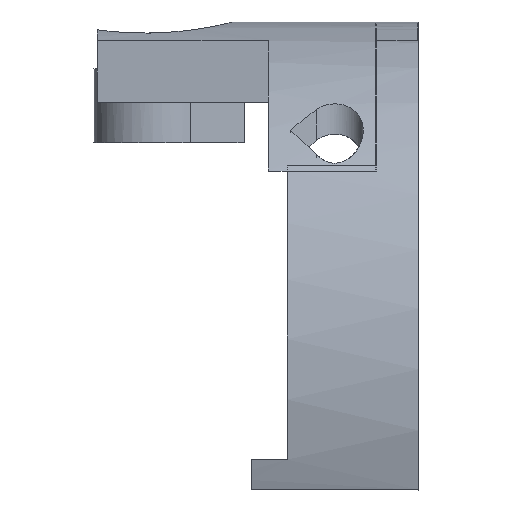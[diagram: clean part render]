
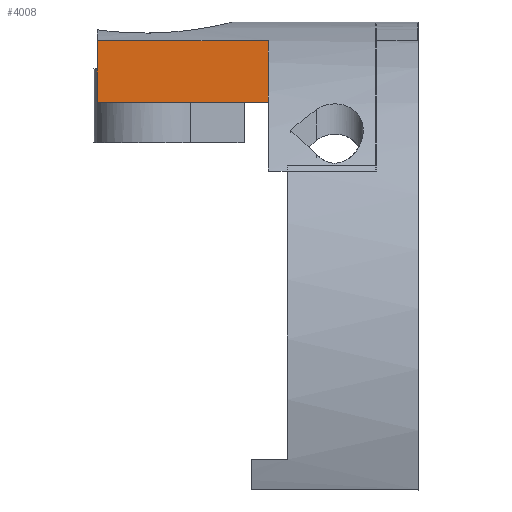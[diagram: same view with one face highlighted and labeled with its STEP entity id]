
A CAD part, front view. The second image highlights one B-rep face of the part: STEP entity #4008.
In plain terms, the highlighted planar face has unit normal (0, -1, 0).
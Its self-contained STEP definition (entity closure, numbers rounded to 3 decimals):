
#154 = PLANE('',#155);
#155 = AXIS2_PLACEMENT_3D('',#156,#157,#158);
#156 = CARTESIAN_POINT('',(185.,0.,0.));
#157 = DIRECTION('',(1.,0.,0.));
#158 = DIRECTION('',(-0.,0.,1.));
#297 = CYLINDRICAL_SURFACE('',#298,18.85);
#298 = AXIS2_PLACEMENT_3D('',#299,#300,#301);
#299 = CARTESIAN_POINT('',(194.,0.,0.));
#300 = DIRECTION('',(1.,0.,0.));
#301 = DIRECTION('',(-0.,0.,1.));
#1711 = CONICAL_SURFACE('',#1712,17.65,0.696);
#1712 = AXIS2_PLACEMENT_3D('',#1713,#1714,#1715);
#1713 = CARTESIAN_POINT('',(201.855,0.,0.));
#1714 = DIRECTION('',(1.,-0.,-0.));
#1715 = DIRECTION('',(0.,0.,-1.));
#1739 = CYLINDRICAL_SURFACE('',#1740,17.65);
#1740 = AXIS2_PLACEMENT_3D('',#1741,#1742,#1743);
#1741 = CARTESIAN_POINT('',(193.9,0.,0.));
#1742 = DIRECTION('',(1.,0.,0.));
#1743 = DIRECTION('',(-0.,0.,1.));
#1932 = VERTEX_POINT('',#1933);
#1933 = CARTESIAN_POINT('',(201.855,-6.,16.599));
#1955 = EDGE_CURVE('',#1932,#1956,#1958,.T.);
#1956 = VERTEX_POINT('',#1957);
#1957 = CARTESIAN_POINT('',(194.,-6.,16.599));
#1958 = SURFACE_CURVE('',#1959,(#1963,#1970),.PCURVE_S1.);
#1959 = LINE('',#1960,#1961);
#1960 = CARTESIAN_POINT('',(201.855,-6.,16.599));
#1961 = VECTOR('',#1962,1.);
#1962 = DIRECTION('',(-1.,0.,0.));
#1963 = PCURVE('',#1739,#1964);
#1964 = DEFINITIONAL_REPRESENTATION('',(#1965),#1969);
#1965 = LINE('',#1966,#1967);
#1966 = CARTESIAN_POINT('',(0.347,7.955));
#1967 = VECTOR('',#1968,1.);
#1968 = DIRECTION('',(-0.,-1.));
#1969 = ( GEOMETRIC_REPRESENTATION_CONTEXT(2) 
PARAMETRIC_REPRESENTATION_CONTEXT() REPRESENTATION_CONTEXT('2D SPACE',''
  ) );
#1970 = PCURVE('',#1971,#1976);
#1971 = PLANE('',#1972);
#1972 = AXIS2_PLACEMENT_3D('',#1973,#1974,#1975);
#1973 = CARTESIAN_POINT('',(185.,-6.,0.));
#1974 = DIRECTION('',(-0.,1.,0.));
#1975 = DIRECTION('',(0.,0.,1.));
#1976 = DEFINITIONAL_REPRESENTATION('',(#1977),#1981);
#1977 = LINE('',#1978,#1979);
#1978 = CARTESIAN_POINT('',(16.599,16.855));
#1979 = VECTOR('',#1980,1.);
#1980 = DIRECTION('',(0.,-1.));
#1981 = ( GEOMETRIC_REPRESENTATION_CONTEXT(2) 
PARAMETRIC_REPRESENTATION_CONTEXT() REPRESENTATION_CONTEXT('2D SPACE',''
  ) );
#2000 = PLANE('',#2001);
#2001 = AXIS2_PLACEMENT_3D('',#2002,#2003,#2004);
#2002 = CARTESIAN_POINT('',(194.,0.,0.));
#2003 = DIRECTION('',(1.,0.,0.));
#2004 = DIRECTION('',(-0.,0.,1.));
#3963 = EDGE_CURVE('',#1956,#3964,#3966,.T.);
#3964 = VERTEX_POINT('',#3965);
#3965 = CARTESIAN_POINT('',(194.,-6.,17.87));
#3966 = SURFACE_CURVE('',#3967,(#3971,#3978),.PCURVE_S1.);
#3967 = LINE('',#3968,#3969);
#3968 = CARTESIAN_POINT('',(194.,-6.,0.));
#3969 = VECTOR('',#3970,1.);
#3970 = DIRECTION('',(0.,0.,1.));
#3971 = PCURVE('',#2000,#3972);
#3972 = DEFINITIONAL_REPRESENTATION('',(#3973),#3977);
#3973 = LINE('',#3974,#3975);
#3974 = CARTESIAN_POINT('',(0.,6.));
#3975 = VECTOR('',#3976,1.);
#3976 = DIRECTION('',(1.,0.));
#3977 = ( GEOMETRIC_REPRESENTATION_CONTEXT(2) 
PARAMETRIC_REPRESENTATION_CONTEXT() REPRESENTATION_CONTEXT('2D SPACE',''
  ) );
#3978 = PCURVE('',#1971,#3979);
#3979 = DEFINITIONAL_REPRESENTATION('',(#3980),#3984);
#3980 = LINE('',#3981,#3982);
#3981 = CARTESIAN_POINT('',(0.,9.));
#3982 = VECTOR('',#3983,1.);
#3983 = DIRECTION('',(1.,0.));
#3984 = ( GEOMETRIC_REPRESENTATION_CONTEXT(2) 
PARAMETRIC_REPRESENTATION_CONTEXT() REPRESENTATION_CONTEXT('2D SPACE',''
  ) );
#4008 = ADVANCED_FACE('',(#4009),#1971,.F.);
#4009 = FACE_BOUND('',#4010,.F.);
#4010 = EDGE_LOOP('',(#4011,#4012,#4013,#4040,#4068,#4096,#4119));
#4011 = ORIENTED_EDGE('',*,*,#3963,.F.);
#4012 = ORIENTED_EDGE('',*,*,#1955,.F.);
#4013 = ORIENTED_EDGE('',*,*,#4014,.T.);
#4014 = EDGE_CURVE('',#1932,#4015,#4017,.T.);
#4015 = VERTEX_POINT('',#4016);
#4016 = CARTESIAN_POINT('',(199.7,-6.,14.671));
#4017 = SURFACE_CURVE('',#4018,(#4023,#4030),.PCURVE_S1.);
#4018 = HYPERBOLA('',#4019,7.183,6.);
#4019 = AXIS2_PLACEMENT_3D('',#4020,#4021,#4022);
#4020 = CARTESIAN_POINT('',(180.725,-6.,0.));
#4021 = DIRECTION('',(0.,1.,0.));
#4022 = DIRECTION('',(1.,0.,-0.));
#4023 = PCURVE('',#1971,#4024);
#4024 = DEFINITIONAL_REPRESENTATION('',(#4025),#4029);
#4025 = HYPERBOLA('',#4026,7.183,6.);
#4026 = AXIS2_PLACEMENT_2D('',#4027,#4028);
#4027 = CARTESIAN_POINT('',(0.,-4.275));
#4028 = DIRECTION('',(0.,1.));
#4029 = ( GEOMETRIC_REPRESENTATION_CONTEXT(2) 
PARAMETRIC_REPRESENTATION_CONTEXT() REPRESENTATION_CONTEXT('2D SPACE',''
  ) );
#4030 = PCURVE('',#1711,#4031);
#4031 = DEFINITIONAL_REPRESENTATION('',(#4032),#4039);
#4032 = B_SPLINE_CURVE_WITH_KNOTS('',5,(#4033,#4034,#4035,#4036,#4037,
    #4038),.UNSPECIFIED.,.F.,.F.,(6,6),(-1.742,-1.624)
  ,.PIECEWISE_BEZIER_KNOTS.);
#4033 = CARTESIAN_POINT('',(-2.795,0.));
#4034 = CARTESIAN_POINT('',(-2.787,-0.469));
#4035 = CARTESIAN_POINT('',(-2.778,-0.924));
#4036 = CARTESIAN_POINT('',(-2.77,-1.364));
#4037 = CARTESIAN_POINT('',(-2.761,-1.791));
#4038 = CARTESIAN_POINT('',(-2.752,-2.205));
#4039 = ( GEOMETRIC_REPRESENTATION_CONTEXT(2) 
PARAMETRIC_REPRESENTATION_CONTEXT() REPRESENTATION_CONTEXT('2D SPACE',''
  ) );
#4040 = ORIENTED_EDGE('',*,*,#4041,.F.);
#4041 = EDGE_CURVE('',#4042,#4015,#4044,.T.);
#4042 = VERTEX_POINT('',#4043);
#4043 = CARTESIAN_POINT('',(199.7,-6.,14.616));
#4044 = SURFACE_CURVE('',#4045,(#4049,#4056),.PCURVE_S1.);
#4045 = LINE('',#4046,#4047);
#4046 = CARTESIAN_POINT('',(199.7,-6.,-15.));
#4047 = VECTOR('',#4048,1.);
#4048 = DIRECTION('',(0.,-0.,1.));
#4049 = PCURVE('',#1971,#4050);
#4050 = DEFINITIONAL_REPRESENTATION('',(#4051),#4055);
#4051 = LINE('',#4052,#4053);
#4052 = CARTESIAN_POINT('',(-15.,14.7));
#4053 = VECTOR('',#4054,1.);
#4054 = DIRECTION('',(1.,0.));
#4055 = ( GEOMETRIC_REPRESENTATION_CONTEXT(2) 
PARAMETRIC_REPRESENTATION_CONTEXT() REPRESENTATION_CONTEXT('2D SPACE',''
  ) );
#4056 = PCURVE('',#4057,#4062);
#4057 = PLANE('',#4058);
#4058 = AXIS2_PLACEMENT_3D('',#4059,#4060,#4061);
#4059 = CARTESIAN_POINT('',(199.7,0.,0.));
#4060 = DIRECTION('',(1.,0.,0.));
#4061 = DIRECTION('',(-0.,0.,1.));
#4062 = DEFINITIONAL_REPRESENTATION('',(#4063),#4067);
#4063 = LINE('',#4064,#4065);
#4064 = CARTESIAN_POINT('',(-15.,6.));
#4065 = VECTOR('',#4066,1.);
#4066 = DIRECTION('',(1.,0.));
#4067 = ( GEOMETRIC_REPRESENTATION_CONTEXT(2) 
PARAMETRIC_REPRESENTATION_CONTEXT() REPRESENTATION_CONTEXT('2D SPACE',''
  ) );
#4068 = ORIENTED_EDGE('',*,*,#4069,.T.);
#4069 = EDGE_CURVE('',#4042,#4070,#4072,.T.);
#4070 = VERTEX_POINT('',#4071);
#4071 = CARTESIAN_POINT('',(185.,-6.,14.616));
#4072 = SURFACE_CURVE('',#4073,(#4077,#4084),.PCURVE_S1.);
#4073 = LINE('',#4074,#4075);
#4074 = CARTESIAN_POINT('',(199.7,-6.,14.616));
#4075 = VECTOR('',#4076,1.);
#4076 = DIRECTION('',(-1.,0.,0.));
#4077 = PCURVE('',#1971,#4078);
#4078 = DEFINITIONAL_REPRESENTATION('',(#4079),#4083);
#4079 = LINE('',#4080,#4081);
#4080 = CARTESIAN_POINT('',(14.616,14.7));
#4081 = VECTOR('',#4082,1.);
#4082 = DIRECTION('',(0.,-1.));
#4083 = ( GEOMETRIC_REPRESENTATION_CONTEXT(2) 
PARAMETRIC_REPRESENTATION_CONTEXT() REPRESENTATION_CONTEXT('2D SPACE',''
  ) );
#4084 = PCURVE('',#4085,#4090);
#4085 = CYLINDRICAL_SURFACE('',#4086,15.8);
#4086 = AXIS2_PLACEMENT_3D('',#4087,#4088,#4089);
#4087 = CARTESIAN_POINT('',(184.,0.,0.));
#4088 = DIRECTION('',(1.,0.,0.));
#4089 = DIRECTION('',(-0.,0.,1.));
#4090 = DEFINITIONAL_REPRESENTATION('',(#4091),#4095);
#4091 = LINE('',#4092,#4093);
#4092 = CARTESIAN_POINT('',(6.673,15.7));
#4093 = VECTOR('',#4094,1.);
#4094 = DIRECTION('',(-0.,-1.));
#4095 = ( GEOMETRIC_REPRESENTATION_CONTEXT(2) 
PARAMETRIC_REPRESENTATION_CONTEXT() REPRESENTATION_CONTEXT('2D SPACE',''
  ) );
#4096 = ORIENTED_EDGE('',*,*,#4097,.T.);
#4097 = EDGE_CURVE('',#4070,#4098,#4100,.T.);
#4098 = VERTEX_POINT('',#4099);
#4099 = CARTESIAN_POINT('',(185.,-6.,17.87));
#4100 = SURFACE_CURVE('',#4101,(#4105,#4112),.PCURVE_S1.);
#4101 = LINE('',#4102,#4103);
#4102 = CARTESIAN_POINT('',(185.,-6.,0.));
#4103 = VECTOR('',#4104,1.);
#4104 = DIRECTION('',(0.,0.,1.));
#4105 = PCURVE('',#1971,#4106);
#4106 = DEFINITIONAL_REPRESENTATION('',(#4107),#4111);
#4107 = LINE('',#4108,#4109);
#4108 = CARTESIAN_POINT('',(0.,0.));
#4109 = VECTOR('',#4110,1.);
#4110 = DIRECTION('',(1.,0.));
#4111 = ( GEOMETRIC_REPRESENTATION_CONTEXT(2) 
PARAMETRIC_REPRESENTATION_CONTEXT() REPRESENTATION_CONTEXT('2D SPACE',''
  ) );
#4112 = PCURVE('',#154,#4113);
#4113 = DEFINITIONAL_REPRESENTATION('',(#4114),#4118);
#4114 = LINE('',#4115,#4116);
#4115 = CARTESIAN_POINT('',(0.,6.));
#4116 = VECTOR('',#4117,1.);
#4117 = DIRECTION('',(1.,0.));
#4118 = ( GEOMETRIC_REPRESENTATION_CONTEXT(2) 
PARAMETRIC_REPRESENTATION_CONTEXT() REPRESENTATION_CONTEXT('2D SPACE',''
  ) );
#4119 = ORIENTED_EDGE('',*,*,#4120,.T.);
#4120 = EDGE_CURVE('',#4098,#3964,#4121,.T.);
#4121 = SURFACE_CURVE('',#4122,(#4126,#4133),.PCURVE_S1.);
#4122 = LINE('',#4123,#4124);
#4123 = CARTESIAN_POINT('',(185.,-6.,17.87));
#4124 = VECTOR('',#4125,1.);
#4125 = DIRECTION('',(1.,0.,0.));
#4126 = PCURVE('',#1971,#4127);
#4127 = DEFINITIONAL_REPRESENTATION('',(#4128),#4132);
#4128 = LINE('',#4129,#4130);
#4129 = CARTESIAN_POINT('',(17.87,0.));
#4130 = VECTOR('',#4131,1.);
#4131 = DIRECTION('',(0.,1.));
#4132 = ( GEOMETRIC_REPRESENTATION_CONTEXT(2) 
PARAMETRIC_REPRESENTATION_CONTEXT() REPRESENTATION_CONTEXT('2D SPACE',''
  ) );
#4133 = PCURVE('',#297,#4134);
#4134 = DEFINITIONAL_REPRESENTATION('',(#4135),#4138);
#4135 = B_SPLINE_CURVE_WITH_KNOTS('',1,(#4136,#4137),.UNSPECIFIED.,.F.,
  .F.,(2,2),(0.,9.),.PIECEWISE_BEZIER_KNOTS.);
#4136 = CARTESIAN_POINT('',(0.324,-9.));
#4137 = CARTESIAN_POINT('',(0.324,0.));
#4138 = ( GEOMETRIC_REPRESENTATION_CONTEXT(2) 
PARAMETRIC_REPRESENTATION_CONTEXT() REPRESENTATION_CONTEXT('2D SPACE',''
  ) );
